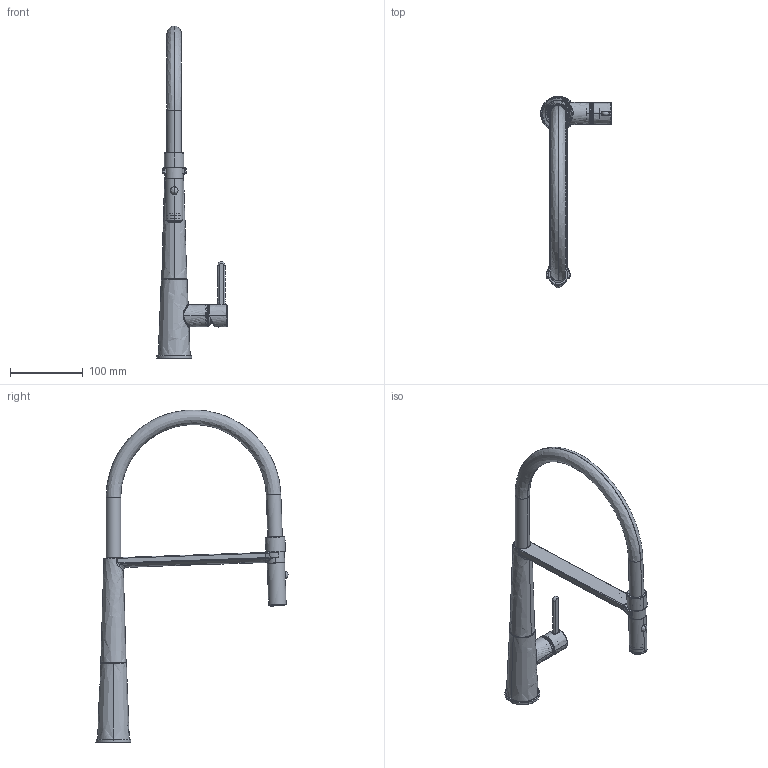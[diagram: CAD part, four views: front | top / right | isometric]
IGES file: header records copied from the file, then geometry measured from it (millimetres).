
Global section: file name: F:\_CONVERSIONE_CAD_2024_2025\03_3D kits new\08_Taps\Icon\3D001_Taps_Icon_Semi-Pro\3D001_Taps_Icon_Semi-Pro.igs; native system: Rhinoceros ( Jan  9 2024 ); preprocessor: Trout Lake IGES 012 Jan  9 2024; date: 240130.141459; units: millimetre
Bounding box: 96.95 x 263.95 x 456.34 mm (x, y, z)
Surface area: 177541.1 mm2 (no closed solid volume)
Topology: 0 solids, 0 shells, 3832 faces, 27437 edges, 27330 vertices
Faces by surface type: bspline 3832
